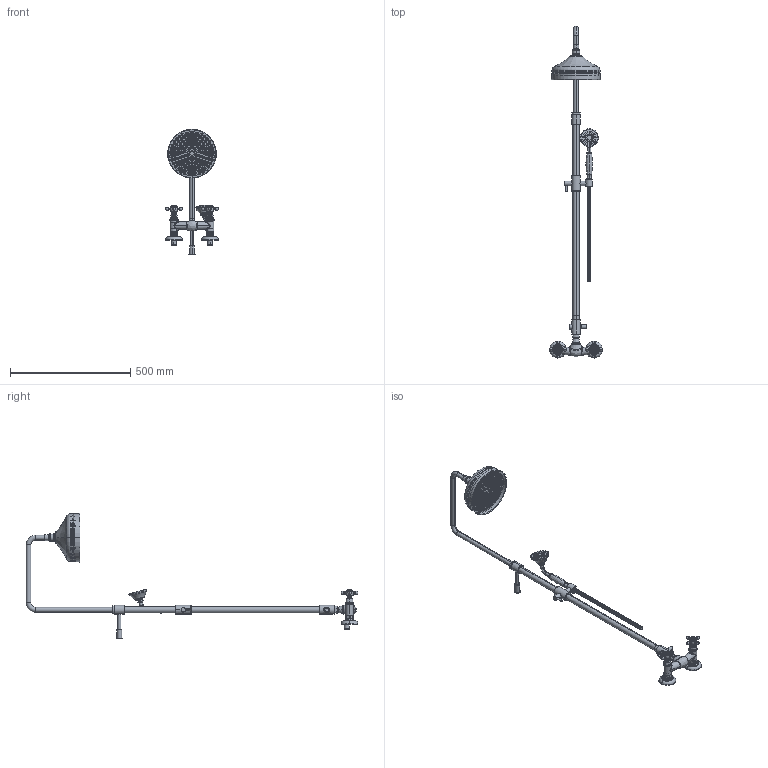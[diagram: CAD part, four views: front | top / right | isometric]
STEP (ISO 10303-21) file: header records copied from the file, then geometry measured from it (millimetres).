
FILE_DESCRIPTION((''),'2;1');
FILE_NAME('F5085_2_FILE_3D','2013-07-16T',('ivanv'),(''),'PRO/ENGINEER BY PARAMETRIC TECHNOLOGY CORPORATION, 2012130','PRO/ENGINEER BY PARAMETRIC TECHNOLOGY CORPORATION, 2012130','');
FILE_SCHEMA(('CONFIG_CONTROL_DESIGN'));
Products named in the file (1): F5085_2_FILE_3D
Bounding box: 220 x 1380.15 x 523.97 mm (x, y, z)
Volume: 2456470.3 mm3; surface area: 542901.6 mm2
Topology: 2 solids, 7 shells, 2718 faces, 6470 edges, 3997 vertices
Faces by surface type: cylinder 1082, plane 708, cone 528, torus 254, bspline 118, sphere 28
Entity records: 141049 total; most frequent: CARTESIAN_POINT 77977, DIRECTION 13536, ORIENTED_EDGE 12900, EDGE_CURVE 6450, AXIS2_PLACEMENT_3D 5541, VERTEX_POINT 3997, EDGE_LOOP 3151, CIRCLE 2940
